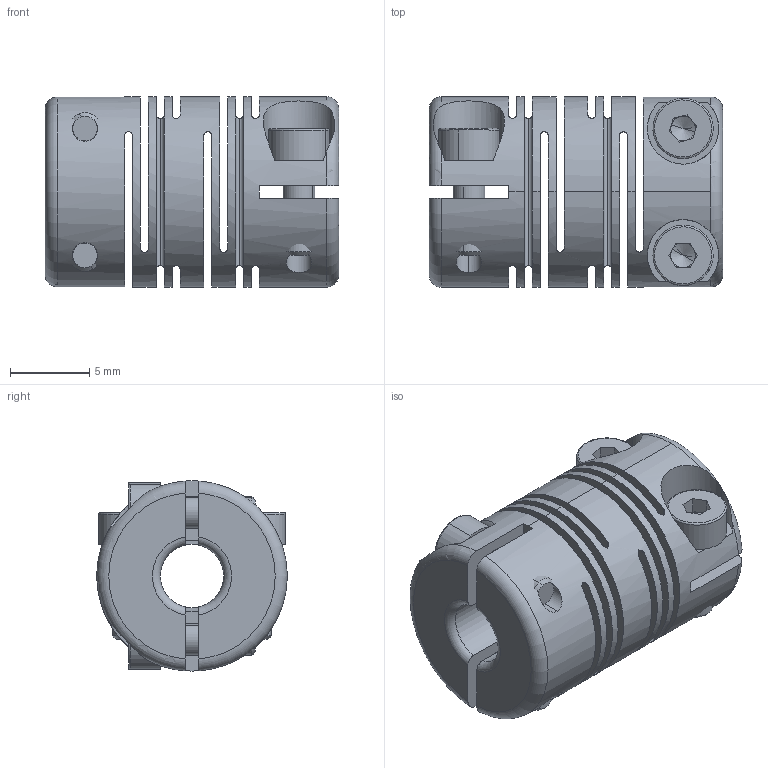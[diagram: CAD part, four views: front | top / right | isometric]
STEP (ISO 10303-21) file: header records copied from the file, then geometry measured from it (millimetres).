
FILE_DESCRIPTION (( 'STEP AP203' ), '1' );
FILE_NAME ('FACML12-4x4.STEP', '2014-01-06T02:07:26', ( '123' ), ( '' ), 'SwSTEP 2.0', 'SolidWorks 2013', '' );
FILE_SCHEMA (( 'CONFIG_CONTROL_DESIGN' ));
Length unit declared in the file: millimetre
Products named in the file (1): FACML12-4x4
Bounding box: 18.5 x 12 x 12 mm (x, y, z)
Surface area: 2811.6 mm2 (no closed solid volume)
Topology: 0 solids, 9 shells, 177 faces, 529 edges, 348 vertices
Faces by surface type: plane 82, cylinder 61, torus 18, cone 16
Entity records: 6484 total; most frequent: CARTESIAN_POINT 1626, DIRECTION 1029, ORIENTED_EDGE 940, EDGE_CURVE 521, AXIS2_PLACEMENT_3D 403, VERTEX_POINT 348, CIRCLE 225, VECTOR 223
